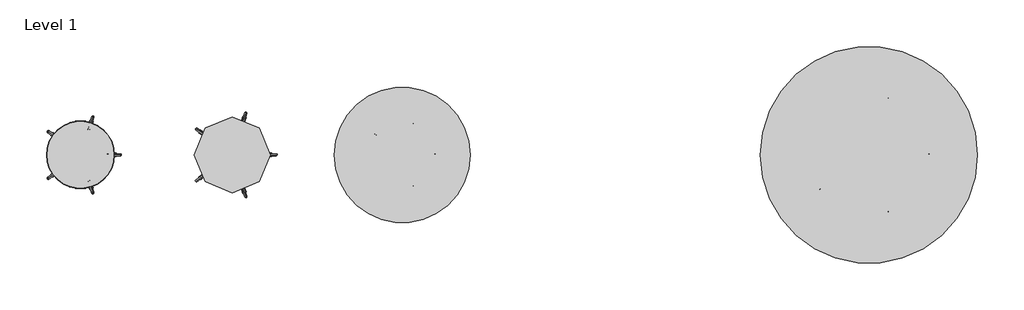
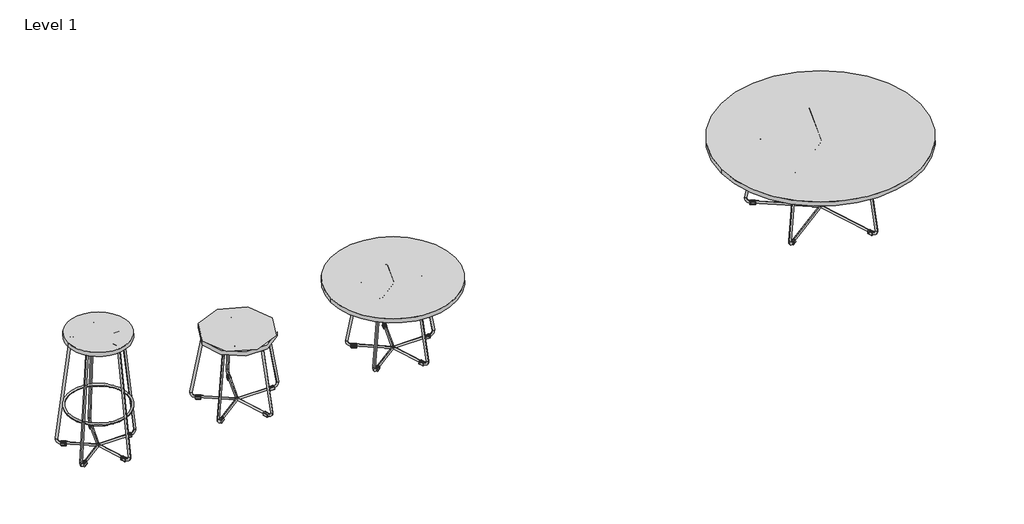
# One storey, incomplete: 4 furniture elements.
"""IFC4 building model written with IfcOpenShell, lengths in millimetres."""

from ifc_helpers import new_model, si_unit, origin, place, context, project, spatial, transform, mapped, element, save
from components import furniture_04dd6bc4, furniture_d91bc916, furniture_0015dd2b, furniture_99742dc7

model = new_model("IFC4")

# Units and contexts
model_context = context("Model", 3, world=origin())
ifc_project = project(units=[si_unit("LENGTHUNIT", "METRE", prefix="MILLI")], contexts=[model_context])

# Site, building, storey
site = spatial("IfcSite", under=ifc_project)
building = spatial("IfcBuilding", under=site)
storey = spatial("IfcBuildingStorey", under=building, Name="Level 1", Elevation=0.0)

# Furniture
placement = place(None, origin())
furniture_shape = furniture_04dd6bc4(model_context)
element("IfcFurniture", 1, ObjectType="AsteriskR185 : AsteriskR185", at=placement, inside=storey, context=model_context, shape_type="MappedRepresentation", body=[
    mapped(furniture_shape, transform((-11000.1731771, -423.3426903, 0.0), x_axis=(1.0, 0.0, 0.0), y_axis=(0.0, 1.0, 0.0), z_axis=(0.0, 0.0, 1.0))),
])
furniture_2_shape = furniture_d91bc916(model_context)
element("IfcFurniture", 2, ObjectType="AsteriskR210 : AsteriskR210", at=placement, inside=storey, context=model_context, shape_type="MappedRepresentation", body=[
    mapped(furniture_2_shape, transform((-10162.0918291, -423.3426903, 0.0), x_axis=(1.0, 0.0, 0.0), y_axis=(0.0, 1.0, 0.0), z_axis=(0.0, 0.0, 1.0))),
])
furniture_3_shape = furniture_0015dd2b(model_context)
element("IfcFurniture", 3, ObjectType="AsteriskR375 : AsteriskR375", at=placement, inside=storey, context=model_context, shape_type="MappedRepresentation", body=[
    mapped(furniture_3_shape, transform((-9222.3553629, -423.3426903, 0.0), x_axis=(1.0, 0.0, 0.0), y_axis=(0.0, 1.0, 0.0), z_axis=(0.0, 0.0, 1.0))),
])
furniture_4_shape = furniture_99742dc7(model_context)
element("IfcFurniture", 4, ObjectType="AsteriskR600 : AsteriskR600", at=placement, inside=storey, context=model_context, shape_type="MappedRepresentation", body=[
    mapped(furniture_4_shape, transform((-6643.4221138, -423.3426903, 0.0), x_axis=(1.0, 0.0, 0.0), y_axis=(0.0, 1.0, 0.0), z_axis=(0.0, 0.0, 1.0))),
])

save(model, "model.ifc")
